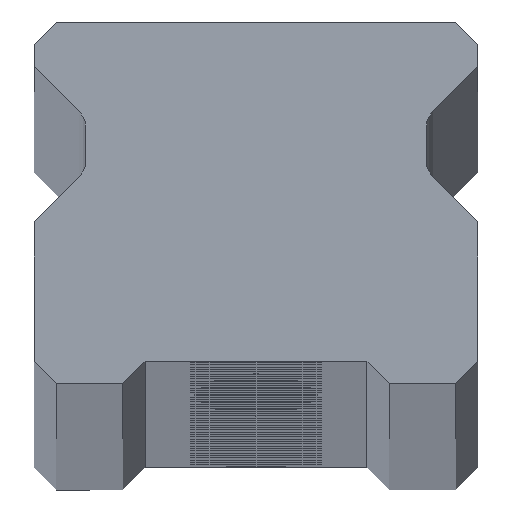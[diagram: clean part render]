
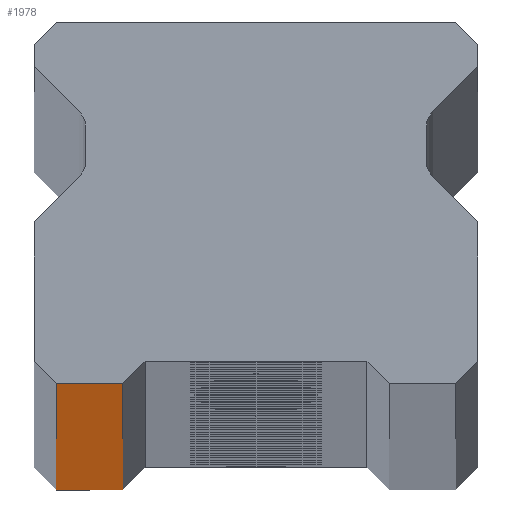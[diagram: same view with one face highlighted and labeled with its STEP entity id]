
A CAD part, top view. The second image highlights one B-rep face of the part: STEP entity #1978.
In plain terms, the highlighted planar face has unit normal (0, -1, 0).
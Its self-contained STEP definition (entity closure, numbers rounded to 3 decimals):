
#84 = VERTEX_POINT ( 'NONE', #215 ) ;
#215 = CARTESIAN_POINT ( 'NONE',  ( -9., 0., 1370. ) ) ;
#495 = LINE ( 'NONE', #6242, #1661 ) ;
#527 = CARTESIAN_POINT ( 'NONE',  ( 10., 0., 1370. ) ) ;
#556 = EDGE_CURVE ( 'NONE', #2597, #2348, #1838, .T. ) ;
#762 = CARTESIAN_POINT ( 'NONE',  ( -6., 0., 1370. ) ) ;
#810 = CARTESIAN_POINT ( 'NONE',  ( 10., 0., -1370. ) ) ;
#881 = ORIENTED_EDGE ( 'NONE', *, *, #556, .T. ) ;
#926 = VECTOR ( 'NONE', #5435, 1000. ) ;
#1327 = VECTOR ( 'NONE', #5116, 1000. ) ;
#1661 = VECTOR ( 'NONE', #6323, 1000. ) ;
#1838 = LINE ( 'NONE', #810, #1327 ) ;
#1965 = CARTESIAN_POINT ( 'NONE',  ( -9., 0., -1370. ) ) ;
#1978 = ADVANCED_FACE ( 'NONE', ( #7248 ), #4534, .F. ) ;
#2214 = ORIENTED_EDGE ( 'NONE', *, *, #5419, .T. ) ;
#2348 = VERTEX_POINT ( 'NONE', #7370 ) ;
#2597 = VERTEX_POINT ( 'NONE', #1965 ) ;
#2756 = CARTESIAN_POINT ( 'NONE',  ( 10., 0., 1370. ) ) ;
#3372 = CARTESIAN_POINT ( 'NONE',  ( -9., 0., 1370. ) ) ;
#3686 = LINE ( 'NONE', #3372, #4931 ) ;
#3897 = EDGE_CURVE ( 'NONE', #2348, #6094, #495, .T. ) ;
#4534 = PLANE ( 'NONE',  #5657 ) ;
#4660 = DIRECTION ( 'NONE',  ( 0., 0., -1. ) ) ;
#4931 = VECTOR ( 'NONE', #4660, 1000. ) ;
#5116 = DIRECTION ( 'NONE',  ( 1., 0., 0. ) ) ;
#5245 = DIRECTION ( 'NONE',  ( 0., 1., 0. ) ) ;
#5419 = EDGE_CURVE ( 'NONE', #84, #2597, #3686, .T. ) ;
#5435 = DIRECTION ( 'NONE',  ( 1., 0., 0. ) ) ;
#5657 = AXIS2_PLACEMENT_3D ( 'NONE', #2756, #5245, #6947 ) ;
#5667 = EDGE_LOOP ( 'NONE', ( #881, #7900, #7294, #2214 ) ) ;
#6094 = VERTEX_POINT ( 'NONE', #762 ) ;
#6242 = CARTESIAN_POINT ( 'NONE',  ( -6., 0., -1370. ) ) ;
#6323 = DIRECTION ( 'NONE',  ( 0., 0., 1. ) ) ;
#6947 = DIRECTION ( 'NONE',  ( -1., 0., 0. ) ) ;
#7248 = FACE_OUTER_BOUND ( 'NONE', #5667, .T. ) ;
#7294 = ORIENTED_EDGE ( 'NONE', *, *, #7443, .F. ) ;
#7370 = CARTESIAN_POINT ( 'NONE',  ( -6., 0., -1370. ) ) ;
#7443 = EDGE_CURVE ( 'NONE', #84, #6094, #7462, .T. ) ;
#7462 = LINE ( 'NONE', #527, #926 ) ;
#7900 = ORIENTED_EDGE ( 'NONE', *, *, #3897, .T. ) ;
